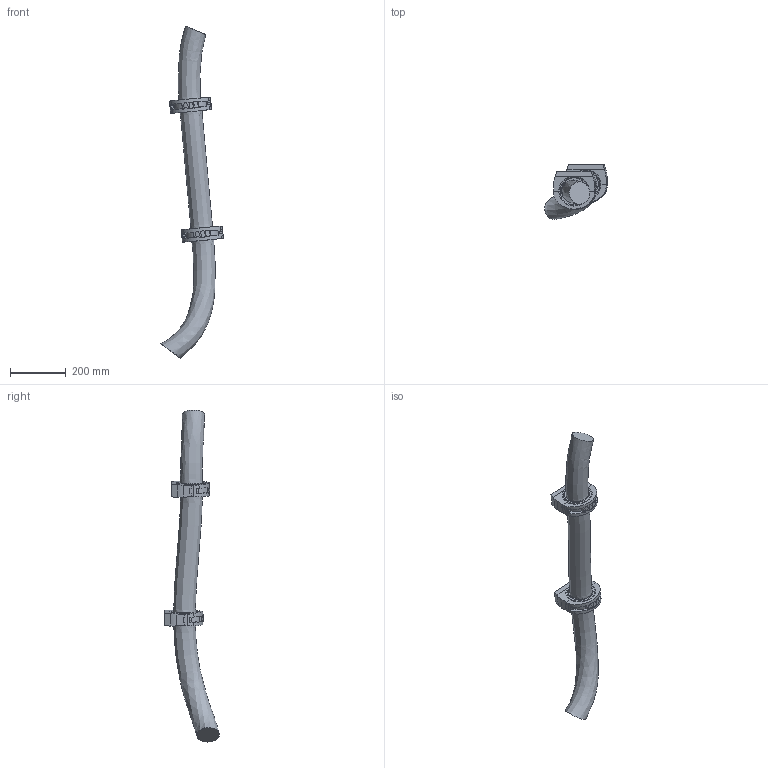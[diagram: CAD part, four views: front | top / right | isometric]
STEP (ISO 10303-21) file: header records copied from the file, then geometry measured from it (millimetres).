
FILE_DESCRIPTION (( 'STEP AP203' ), '1' );
FILE_NAME ('IRB6730S-ALL-OC_00_LINK02_CABLE.step', '2025-12-19T13:14:44', ( '' ), ( '' ), 'SwSTEP 2.0', 'SolidWorks 2024', '' );
FILE_SCHEMA (( 'CONFIG_CONTROL_DESIGN' ));
Length unit declared in the file: millimetre
Products named in the file (1): IRB6730S-ALL-OC_00_LINK02_CABLE
Bounding box: 225.27 x 196.54 x 1193.23 mm (x, y, z)
Volume: 7123876.5 mm3; surface area: 410858.8 mm2
Topology: 1 solids, 3 shells, 211 faces, 551 edges, 362 vertices
Faces by surface type: plane 140, cylinder 40, bspline 13, sphere 10, cone 8
Full cylindrical faces by diameter (mm): 6 x4, 10.22 x4, 90 x2
Entity records: 12601 total; most frequent: CARTESIAN_POINT 7698, ORIENTED_EDGE 1040, DIRECTION 914, EDGE_CURVE 520, VERTEX_POINT 348, AXIS2_PLACEMENT_3D 319, LINE 276, VECTOR 276
